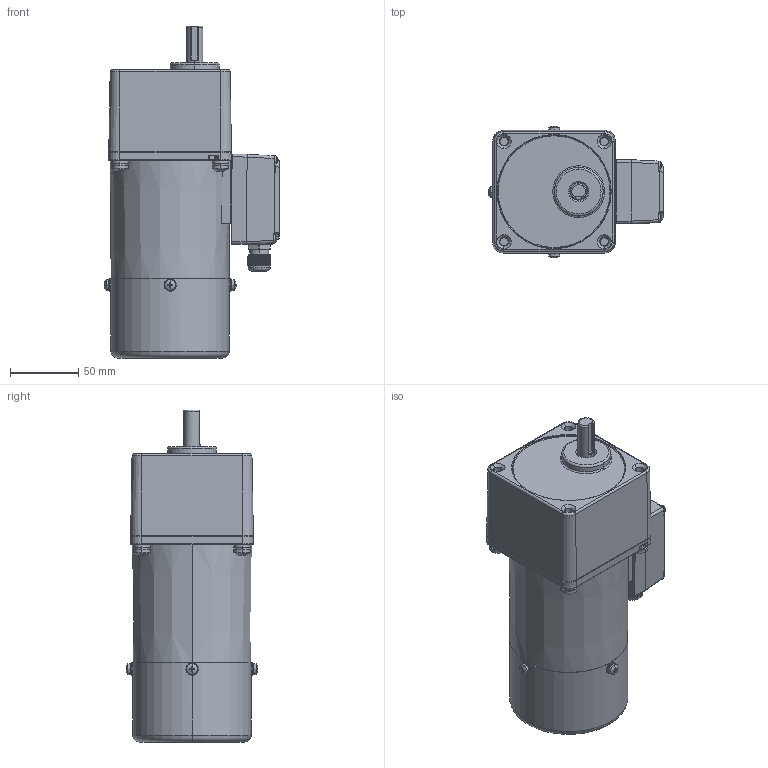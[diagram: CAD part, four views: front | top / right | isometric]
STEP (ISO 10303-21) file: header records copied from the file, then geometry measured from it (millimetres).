
FILE_DESCRIPTION (( 'STEP AP203' ), '1' );
FILE_NAME ('5RK40GN-CMT(5GN3K-200K).STEP', '2020-04-09T03:44:05', ( 'Windows 蚚誧' ), ( '' ), 'SwSTEP 2.0', 'SolidWorks 2019', '' );
FILE_SCHEMA (( 'CONFIG_CONTROL_DESIGN' ));
Length unit declared in the file: millimetre
Products named in the file (9): 90SCZ; 9040TSJXHJK; 5GN3K‵200K; TSJXH^70TSJXHG(2)_70TSJXHG.STEP; 5RK40GN-CMT(5GN3K-200K); M14SJQ^70TSJXHG(2)_70TSJXHG.STEP; M3^70TSJXHG(2)_70TSJXHG.STEP; 70TSJXHG(2)^70TSJXHG.STEP; 70TSJXHG.STEP
Assembly tree (11 placements, depth 4):
  5RK40GN-CMT(5GN3K-200K)
    9040TSJXHJK
    70TSJXHG.STEP
      70TSJXHG(2)^70TSJXHG.STEP
        TSJXH^70TSJXHG(2)_70TSJXHG.STEP
        M14SJQ^70TSJXHG(2)_70TSJXHG.STEP
        M3^70TSJXHG(2)_70TSJXHG.STEP  x4
    90SCZ
    5GN3K‵200K
Bounding box: 128.79 x 96.71 x 243.5 mm (x, y, z)
Volume: 743069.5 mm3; surface area: 208167.5 mm2
Topology: 51 solids, 52 shells, 1931 faces, 4951 edges, 3149 vertices
Faces by surface type: cylinder 681, plane 593, cone 410, torus 145, sphere 82, bspline 20
Entity records: 54950 total; most frequent: CARTESIAN_POINT 16060, DIRECTION 8324, ORIENTED_EDGE 7838, EDGE_CURVE 3919, AXIS2_PLACEMENT_3D 3412, VERTEX_POINT 2529, CIRCLE 1872, EDGE_LOOP 1652
